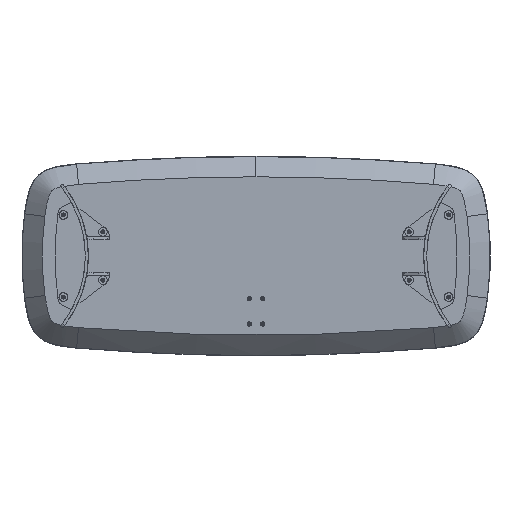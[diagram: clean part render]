
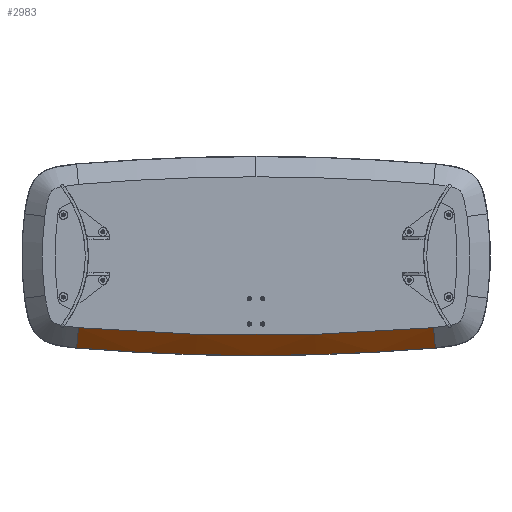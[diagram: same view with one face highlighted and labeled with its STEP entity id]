
A CAD part, front view. The second image highlights one B-rep face of the part: STEP entity #2983.
In plain terms, the highlighted conical face has half-angle 45 degrees and reference radius 5863 mm.
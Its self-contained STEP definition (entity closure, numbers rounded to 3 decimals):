
#89 = DIRECTION ( 'NONE',  ( 0., 0., -1. ) ) ;
#226 = VERTEX_POINT ( 'NONE', #10310 ) ;
#305 = DIRECTION ( 'NONE',  ( 0., -1., 0. ) ) ;
#401 = EDGE_CURVE ( 'NONE', #226, #4213, #699, .T. ) ;
#671 = EDGE_CURVE ( 'NONE', #226, #15265, #9646, .T. ) ;
#699 = CIRCLE ( 'NONE', #13072, 5919.414 ) ;
#937 = CARTESIAN_POINT ( 'NONE',  ( -498.085, 56.414, -255.421 ) ) ;
#943 = CARTESIAN_POINT ( 'NONE',  ( 493.338, 0., -199.207 ) ) ;
#1133 = FACE_OUTER_BOUND ( 'NONE', #7380, .T. ) ;
#1279 = AXIS2_PLACEMENT_3D ( 'NONE', #12388, #14995, #5017 ) ;
#1607 = CARTESIAN_POINT ( 'NONE',  ( 493.338, 0., -199.207 ) ) ;
#1844 = AXIS2_PLACEMENT_3D ( 'NONE', #3353, #5795, #7059 ) ;
#2045 = VERTEX_POINT ( 'NONE', #1607 ) ;
#2259 = CARTESIAN_POINT ( 'NONE',  ( -493.338, 0., -199.207 ) ) ;
#2983 = ADVANCED_FACE ( 'NONE', ( #1133 ), #12721, .T. ) ;
#3353 = CARTESIAN_POINT ( 'NONE',  ( 0., 0., 5643. ) ) ;
#3470 = CARTESIAN_POINT ( 'NONE',  ( 498.085, 56.414, -255.421 ) ) ;
#3794 = EDGE_CURVE ( 'NONE', #15265, #2045, #13010, .T. ) ;
#4213 = VERTEX_POINT ( 'NONE', #10158 ) ;
#4428 = CARTESIAN_POINT ( 'NONE',  ( 496.503, 37.609, -236.683 ) ) ;
#5017 = DIRECTION ( 'NONE',  ( 0., 0., -1. ) ) ;
#5795 = DIRECTION ( 'NONE',  ( 0., 1., 0. ) ) ;
#5902 = VERTEX_POINT ( 'NONE', #6001 ) ;
#6001 = CARTESIAN_POINT ( 'NONE',  ( 498.085, 56.414, -255.421 ) ) ;
#6167 = DIRECTION ( 'NONE',  ( 0., -1., 0. ) ) ;
#6390 = CARTESIAN_POINT ( 'NONE',  ( 0., 0., 5643. ) ) ;
#7059 = DIRECTION ( 'NONE',  ( 0., 0., 1. ) ) ;
#7269 = CARTESIAN_POINT ( 'NONE',  ( 0., 56.414, 5643. ) ) ;
#7300 = ORIENTED_EDGE ( 'NONE', *, *, #10232, .T. ) ;
#7380 = EDGE_LOOP ( 'NONE', ( #15181, #9970, #7300, #11259, #15624 ) ) ;
#8109 = CIRCLE ( 'NONE', #1279, 5919.414 ) ;
#9470 = AXIS2_PLACEMENT_3D ( 'NONE', #6390, #305, #14779 ) ;
#9646 = B_SPLINE_CURVE_WITH_KNOTS ( 'NONE', 1,
 ( #937, #2259 ),
 .UNSPECIFIED., .F., .F.,
 ( 2, 2 ),
 ( 0.01, 1. ),
 .UNSPECIFIED. ) ;
#9735 = EDGE_CURVE ( 'NONE', #5902, #2045, #13735, .T. ) ;
#9970 = ORIENTED_EDGE ( 'NONE', *, *, #401, .T. ) ;
#10158 = CARTESIAN_POINT ( 'NONE',  ( 0., 56.414, -276.414 ) ) ;
#10232 = EDGE_CURVE ( 'NONE', #4213, #5902, #8109, .T. ) ;
#10310 = CARTESIAN_POINT ( 'NONE',  ( -498.085, 56.414, -255.421 ) ) ;
#10693 = CARTESIAN_POINT ( 'NONE',  ( -493.338, 0., -199.207 ) ) ;
#11259 = ORIENTED_EDGE ( 'NONE', *, *, #9735, .T. ) ;
#12388 = CARTESIAN_POINT ( 'NONE',  ( 0., 56.414, 5643. ) ) ;
#12721 = CONICAL_SURFACE ( 'NONE', #1844, 5863., 0.785 ) ;
#13010 = CIRCLE ( 'NONE', #9470, 5863. ) ;
#13072 = AXIS2_PLACEMENT_3D ( 'NONE', #7269, #6167, #89 ) ;
#13735 = B_SPLINE_CURVE_WITH_KNOTS ( 'NONE', 3,
 ( #3470, #4428, #14002, #943 ),
 .UNSPECIFIED., .F., .F.,
 ( 4, 4 ),
 ( 0.01, 1. ),
 .UNSPECIFIED. ) ;
#14002 = CARTESIAN_POINT ( 'NONE',  ( 494.921, 18.805, -217.945 ) ) ;
#14779 = DIRECTION ( 'NONE',  ( 0., 0., 1. ) ) ;
#14995 = DIRECTION ( 'NONE',  ( 0., -1., 0. ) ) ;
#15181 = ORIENTED_EDGE ( 'NONE', *, *, #671, .F. ) ;
#15265 = VERTEX_POINT ( 'NONE', #10693 ) ;
#15624 = ORIENTED_EDGE ( 'NONE', *, *, #3794, .F. ) ;
